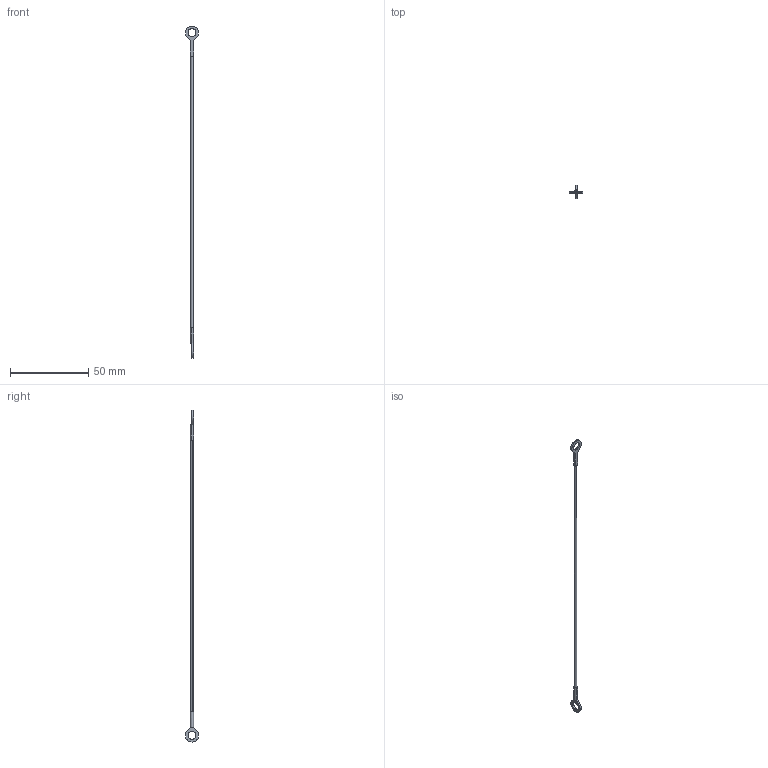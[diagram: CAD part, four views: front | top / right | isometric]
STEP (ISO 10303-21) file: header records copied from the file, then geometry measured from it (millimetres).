
FILE_DESCRIPTION (( 'STEP AP203' ), '1' );
FILE_NAME ('LA1070.I06-203N1.step', '2026-03-23T14:50:11', ( '' ), ( '' ), 'SwSTEP 2.0', 'SolidWorks 2019', '' );
FILE_SCHEMA (( 'CONFIG_CONTROL_DESIGN' ));
Length unit declared in the file: millimetre
Products named in the file (1): LA1070.I06-203N1
Bounding box: 8.36 x 8.35 x 211.56 mm (x, y, z)
Volume: 493.9 mm3; surface area: 1249.5 mm2
Topology: 1 solids, 1 shells, 27 faces, 61 edges, 38 vertices
Faces by surface type: plane 16, cylinder 11
Entity records: 852 total; most frequent: CARTESIAN_POINT 151, DIRECTION 133, ORIENTED_EDGE 122, EDGE_CURVE 61, AXIS2_PLACEMENT_3D 48, VERTEX_POINT 38, VECTOR 37, LINE 37
